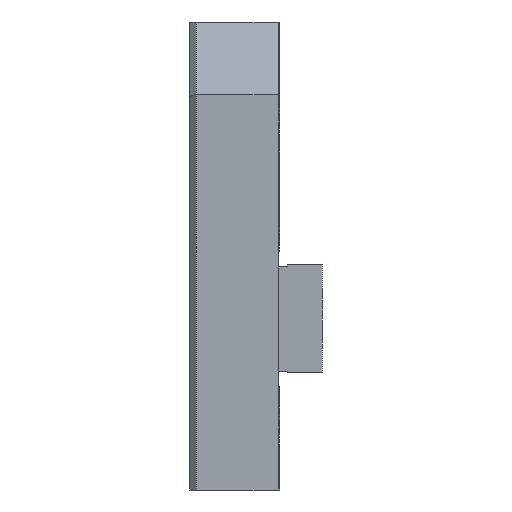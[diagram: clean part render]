
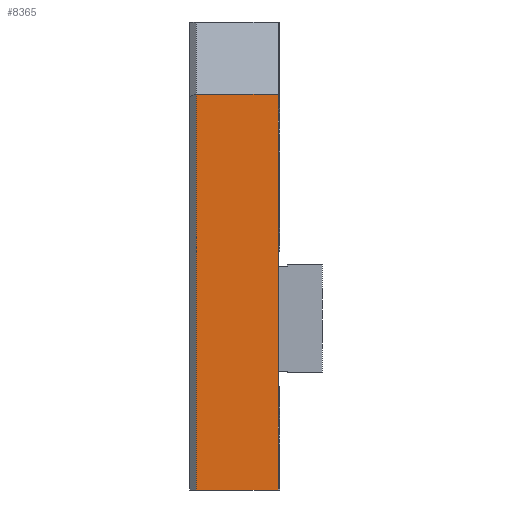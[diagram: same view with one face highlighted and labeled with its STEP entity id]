
A CAD part, left-side view. The second image highlights one B-rep face of the part: STEP entity #8365.
In plain terms, the highlighted planar face has unit normal (-1, 0, 0).
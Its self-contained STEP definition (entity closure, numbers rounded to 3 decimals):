
#1560=DIRECTION('',(0.,1.,0.));
#1561=VECTOR('',#1560,18.2);
#1562=CARTESIAN_POINT('',(-94.5,0.3,0.));
#1563=LINE('',#1562,#1561);
#2573=DIRECTION('',(0.,0.,1.));
#2574=VECTOR('',#2573,88.);
#2575=CARTESIAN_POINT('',(-94.5,18.5,0.));
#2576=LINE('',#2575,#2574);
#2589=DIRECTION('',(0.,-1.,0.));
#2590=VECTOR('',#2589,18.2);
#2591=CARTESIAN_POINT('',(-94.5,18.5,88.));
#2592=LINE('',#2591,#2590);
#2597=DIRECTION('',(0.,0.,-1.));
#2598=VECTOR('',#2597,88.);
#2599=CARTESIAN_POINT('',(-94.5,0.3,88.));
#2600=LINE('',#2599,#2598);
#4784=CARTESIAN_POINT('',(-94.5,18.5,88.));
#4786=VERTEX_POINT('',#4784);
#4802=CARTESIAN_POINT('',(-94.5,18.5,0.));
#4803=VERTEX_POINT('',#4802);
#4923=CARTESIAN_POINT('',(-94.5,0.3,88.));
#4925=VERTEX_POINT('',#4923);
#4952=CARTESIAN_POINT('',(-94.5,0.3,0.));
#4953=VERTEX_POINT('',#4952);
#8354=CARTESIAN_POINT('',(-94.5,20.,0.));
#8355=DIRECTION('',(1.,0.,0.));
#8356=DIRECTION('',(0.,0.,-1.));
#8357=AXIS2_PLACEMENT_3D('',#8354,#8355,#8356);
#8358=PLANE('',#8357);
#8359=ORIENTED_EDGE('',*,*,#5946,.T.);
#8360=ORIENTED_EDGE('',*,*,#7047,.T.);
#8361=ORIENTED_EDGE('',*,*,#8323,.T.);
#8362=ORIENTED_EDGE('',*,*,#8347,.T.);
#8363=EDGE_LOOP('',(#8359,#8360,#8361,#8362));
#8364=FACE_OUTER_BOUND('',#8363,.F.);
#8365=ADVANCED_FACE('',(#8364),#8358,.F.);
#5946=EDGE_CURVE('',#4925,#4953,#2600,.T.);
#7047=EDGE_CURVE('',#4953,#4803,#1563,.T.);
#8323=EDGE_CURVE('',#4803,#4786,#2576,.T.);
#8347=EDGE_CURVE('',#4786,#4925,#2592,.T.);
